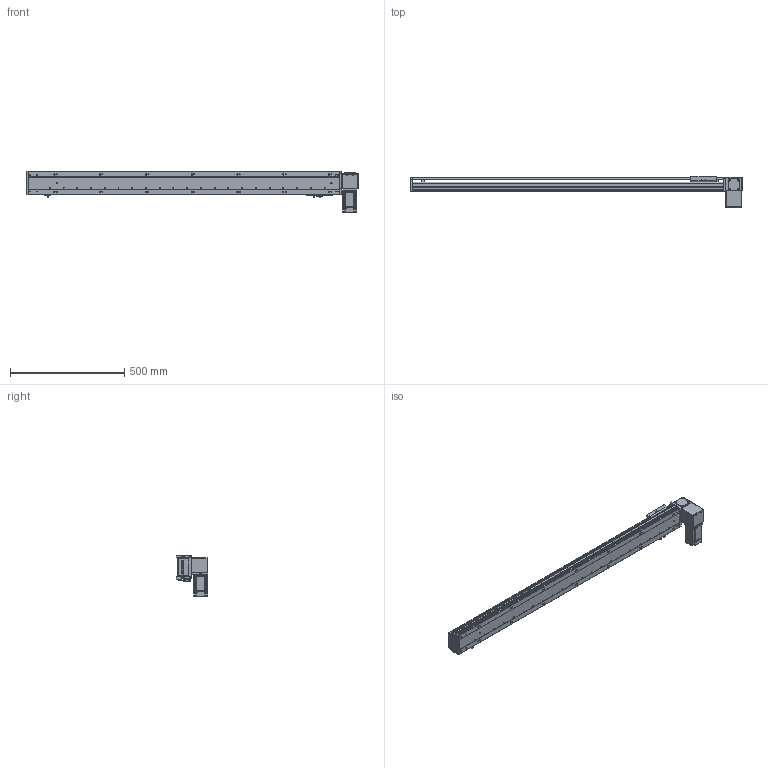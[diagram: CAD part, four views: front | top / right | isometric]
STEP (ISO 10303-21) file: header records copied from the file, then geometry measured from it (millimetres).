
FILE_DESCRIPTION (( 'STEP AP203' ), '1' );
FILE_NAME ('RY100-T-300-DL.SLDASM_1150.step', '2024-04-24T01:11:42', ( '盈信电脑' ), ( '东莞市道滘镇水果街19号' ), 'SwSTEP 2.0', 'SolidWorks 2016', '' );
FILE_SCHEMA (( 'CONFIG_CONTROL_DESIGN' ));
Length unit declared in the file: millimetre
Products named in the file (16): RY100-T-300-RK倰第奻裔_1150; RY100-T-300-RK倰第菁釱_1150; 覜茼ん672; RY100綴裔啣; RY100-T翋肮祭謫裔啣2; 1; RY100俋离覜茼え; 滅袉蝶18-10; RY100-T肮祭謫臏賑輸; RY100-T左右折电机安装板; RY100-T翋肮祭謫裔啣; RY80-T肮祭謫狟殏俋欶; RY100-T粣創揤踡裔; RY100-T翋肮祭謫粣; RY100-T-300-DL.SLDASM_1150; RY100-T肮祭謫翋盓傅釱
Assembly tree (18 placements, depth 2):
  RY100-T-300-DL.SLDASM_1150
    RY100-T-300-RK倰第菁釱_1150
    RY100-T-300-RK倰第奻裔_1150
    RY100-T肮祭謫臏賑輸
    RY100綴裔啣
    覜茼ん672  x3
    RY100俋离覜茼え
    RY100-T翋肮祭謫粣
    RY100-T肮祭謫翋盓傅釱
    滅袉蝶18-10  x2
    RY100-T翋肮祭謫裔啣
    1
    RY100-T左右折电机安装板
    RY100-T粣創揤踡裔
    RY100-T翋肮祭謫裔啣2
    RY80-T肮祭謫狟殏俋欶
Bounding box: 1450 x 135.5 x 182.5 mm (x, y, z)
Volume: 2883372.7 mm3; surface area: 1191406.1 mm2
Topology: 18 solids, 18 shells, 2231 faces, 6179 edges, 4011 vertices
Faces by surface type: plane 1211, cylinder 803, cone 139, bspline 78
Entity records: 71764 total; most frequent: CARTESIAN_POINT 17204, ORIENTED_EDGE 11190, DIRECTION 10699, EDGE_CURVE 5595, VERTEX_POINT 3679, LINE 3617, VECTOR 3617, AXIS2_PLACEMENT_3D 3541
